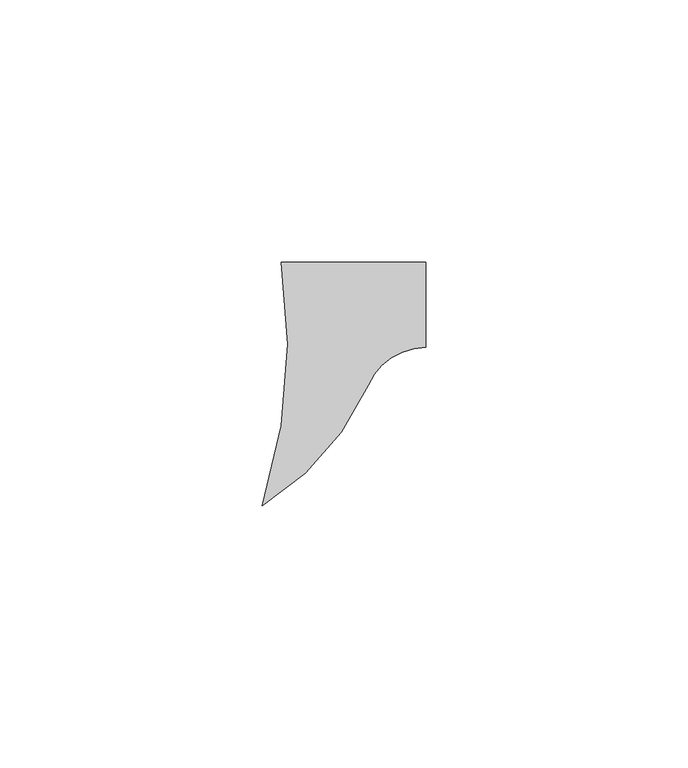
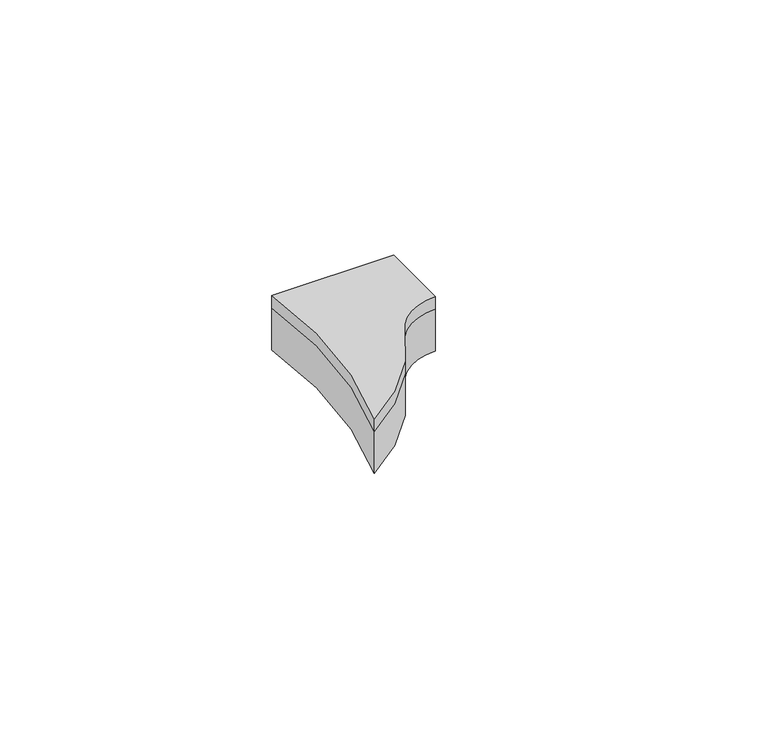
"""IFC4 building model written with IfcOpenShell, lengths in millimetres: proxy geometry, FilzFelt_Fish_Block : Fish Block."""

from ifc_helpers import new_model, si_unit, point, frame, frame_2d, origin, origin_with_axes, place, context, project, spatial, polyline, circle_curve, trimmed, segment, composite_curve, outline, extrude, source, transform, mapped, element, save


def specialty_equipment_f8375183(model_context):
    return source(origin(), model_context, "Body", "SweptSolid", [
        extrude(outline(composite_curve([segment(trimmed(circle_curve(frame_2d((-57.9263497, -124.2921115)), 51.2968574), [point((-11.0103348, -145.0347036))], [point((-31.2619065, -168.1141956))], False, "CARTESIAN"), True, "CONTINUOUS"), segment(trimmed(circle_curve(frame_2d((-126.6124317, -137.2240266)), 100.2293629), [point((-31.2619065, -168.1141956))], [point((-27.6129447, -121.570696))], True, "CARTESIAN"), True, "CONTINUOUS"), segment(polyline([(-27.6129447, -121.570696), (0.0, -121.570696), (0.0, -137.8641736)]), True, "CONTINUOUS"), segment(trimmed(circle_curve(frame_2d((0.0, -149.9026124)), 12.0384388), [point((0.0, -137.8641736))], [point((-11.0103348, -145.0347036))], True, "CARTESIAN"), True, "CONTINUOUS")], self_intersect=False)), frame((0.0, 0.0, 10.0210937), z_axis=(0.0, 0.0, 1.0), x_axis=(1.0, 0.0, 0.0)), (0.0, 0.0, 1.0), 2.9765625),
        extrude(outline(composite_curve([segment(trimmed(circle_curve(frame_2d((-57.9263497, -124.2921115)), 51.2968574), [point((-11.0103348, -145.0347036))], [point((-31.2619065, -168.1141956))], False, "CARTESIAN"), True, "CONTINUOUS"), segment(trimmed(circle_curve(frame_2d((-126.6124317, -137.2240266)), 100.2293629), [point((-31.2619065, -168.1141956))], [point((-27.6129447, -121.570696))], True, "CARTESIAN"), True, "CONTINUOUS"), segment(polyline([(-27.6129447, -121.570696), (0.0, -121.570696), (0.0, -137.8641736)]), True, "CONTINUOUS"), segment(trimmed(circle_curve(frame_2d((0.0, -149.9026124)), 12.0384388), [point((0.0, -137.8641736))], [point((-11.0103348, -145.0347036))], True, "CARTESIAN"), True, "CONTINUOUS")], self_intersect=False)), origin_with_axes(), (0.0, 0.0, 1.0), 10.0210938),
    ])


if __name__ == "__main__":
    model = new_model("IFC4")
    model_context = context("Model", 3, world=origin())
    ifc_project = project(units=[si_unit("LENGTHUNIT", "METRE", prefix="MILLI")], contexts=[model_context])
    site = spatial("IfcSite", under=ifc_project)
    building = spatial("IfcBuilding", under=site)
    placement = place(None, origin())
    specialty_equipment_shape = specialty_equipment_f8375183(model_context)
    element("IfcBuildingElementProxy", 1, Name="FilzFelt_Fish_Block : Fish Block", ObjectType="FilzFelt_Fish_Block : Fish Block", at=placement, inside=building, context=model_context, shape_type="MappedRepresentation", body=[
        mapped(specialty_equipment_shape, transform((0.0, 0.0, 0.0), x_axis=(1.0, 0.0, 0.0), y_axis=(0.0, 1.0, 0.0), z_axis=(0.0, 0.0, 1.0))),
    ])
    save(model, "model.ifc")
